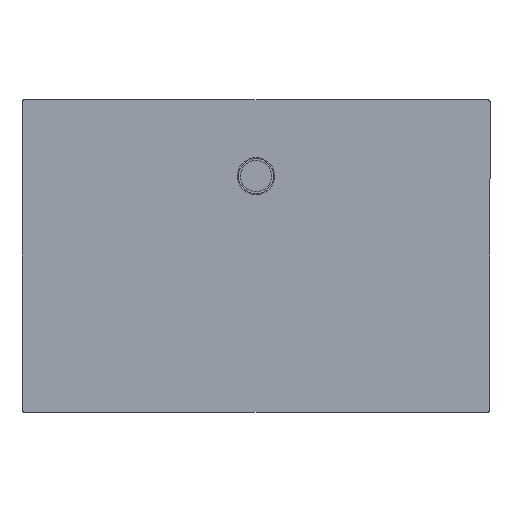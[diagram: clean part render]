
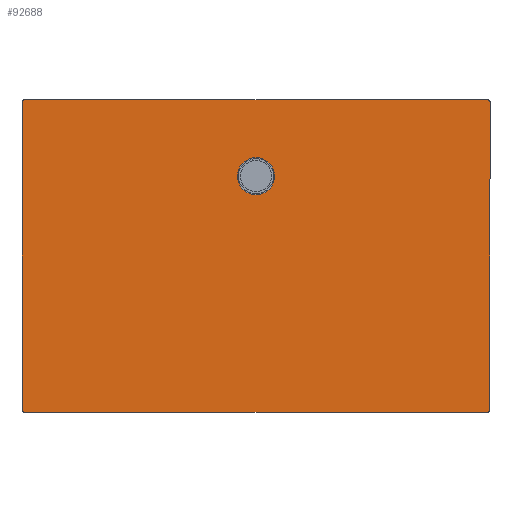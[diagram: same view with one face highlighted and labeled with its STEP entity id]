
A CAD part, front view. The second image highlights one B-rep face of the part: STEP entity #92688.
In plain terms, the highlighted planar face has unit normal (0, -1, 0).
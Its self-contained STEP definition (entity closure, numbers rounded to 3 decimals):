
#2409 = CARTESIAN_POINT ( 'NONE',  ( 598.628, -40., -605.698 ) ) ;
#3008 = VERTEX_POINT ( 'NONE', #140613 ) ;
#8614 = ORIENTED_EDGE ( 'NONE', *, *, #165196, .T. ) ;
#10735 = VECTOR ( 'NONE', #127885, 1000. ) ;
#12187 = CARTESIAN_POINT ( 'NONE',  ( 595.699, -40., -605.698 ) ) ;
#14139 = ORIENTED_EDGE ( 'NONE', *, *, #25645, .T. ) ;
#20526 = CARTESIAN_POINT ( 'NONE',  ( -600., -40., -605.698 ) ) ;
#21999 = CARTESIAN_POINT ( 'NONE',  ( -600.698, -40., 190.699 ) ) ;
#22152 = VERTEX_POINT ( 'NONE', #152691 ) ;
#23535 = CARTESIAN_POINT ( 'NONE',  ( -600., -40., 195. ) ) ;
#24350 = EDGE_CURVE ( 'NONE', #123108, #160865, #119192, .T. ) ;
#25109 = EDGE_CURVE ( 'NONE', #126327, #79175, #124640, .T. ) ;
#25645 = EDGE_CURVE ( 'NONE', #152157, #22152, #61862, .T. ) ;
#29486 = CARTESIAN_POINT ( 'NONE',  ( -600.698, -40., -600.699 ) ) ;
#30323 = CARTESIAN_POINT ( 'NONE',  ( 600.698, -40., -600.699 ) ) ;
#31161 = CARTESIAN_POINT ( 'NONE',  ( 595.699, -40., -605.698 ) ) ;
#33441 = CIRCLE ( 'NONE', #165921, 47.5 ) ;
#34046 = DIRECTION ( 'NONE',  ( -1., 0., 0. ) ) ;
#36552 = CARTESIAN_POINT ( 'NONE',  ( 598.628, -40., 195.698 ) ) ;
#37393 = CARTESIAN_POINT ( 'NONE',  ( 600.698, -40., 190.699 ) ) ;
#40094 = CARTESIAN_POINT ( 'NONE',  ( 0., -40., 47.5 ) ) ;
#42022 = CARTESIAN_POINT ( 'NONE',  ( 595.699, -40., 195.698 ) ) ;
#47375 = CARTESIAN_POINT ( 'NONE',  ( -600.698, -40., 193.628 ) ) ;
#47729 = ORIENTED_EDGE ( 'NONE', *, *, #146805, .F. ) ;
#49843 = DIRECTION ( 'NONE',  ( 0., 0., 1. ) ) ;
#50241 = EDGE_LOOP ( 'NONE', ( #71068 ) ) ;
#50595 = DIRECTION ( 'NONE',  ( 0., 1., 0. ) ) ;
#59468 =( BOUNDED_CURVE ( )  B_SPLINE_CURVE ( 3, ( #29486, #81104, #159013, #129399 ),
 .UNSPECIFIED., .F., .T. ) 
 B_SPLINE_CURVE_WITH_KNOTS ( ( 4, 4 ),
 ( 2.356, 3.927 ),
 .UNSPECIFIED. ) 
 CURVE ( )  GEOMETRIC_REPRESENTATION_ITEM ( )  RATIONAL_B_SPLINE_CURVE ( ( 1., 0.805, 0.805, 1. ) ) 
 REPRESENTATION_ITEM ( '' )  );
#60226 = LINE ( 'NONE', #61055, #143197 ) ;
#61055 = CARTESIAN_POINT ( 'NONE',  ( 600.698, -40., 195. ) ) ;
#61862 =( BOUNDED_CURVE ( )  B_SPLINE_CURVE ( 3, ( #163400, #71113, #47375, #21999 ),
 .UNSPECIFIED., .F., .T. ) 
 B_SPLINE_CURVE_WITH_KNOTS ( ( 4, 4 ),
 ( 2.356, 3.927 ),
 .UNSPECIFIED. ) 
 CURVE ( )  GEOMETRIC_REPRESENTATION_ITEM ( )  RATIONAL_B_SPLINE_CURVE ( ( 1., 0.805, 0.805, 1. ) ) 
 REPRESENTATION_ITEM ( '' )  );
#62460 = DIRECTION ( 'NONE',  ( 0., 0., 1. ) ) ;
#64795 = CARTESIAN_POINT ( 'NONE',  ( -595.699, -40., -605.698 ) ) ;
#67643 = VECTOR ( 'NONE', #106722, 1000. ) ;
#71068 = ORIENTED_EDGE ( 'NONE', *, *, #86882, .T. ) ;
#71113 = CARTESIAN_POINT ( 'NONE',  ( -598.628, -40., 195.698 ) ) ;
#71640 = EDGE_CURVE ( 'NONE', #79175, #158888, #111077, .T. ) ;
#76676 = AXIS2_PLACEMENT_3D ( 'NONE', #23535, #50595, #62460 ) ;
#77088 = LINE ( 'NONE', #143106, #10735 ) ;
#79175 = VERTEX_POINT ( 'NONE', #12187 ) ;
#81104 = CARTESIAN_POINT ( 'NONE',  ( -600.698, -40., -603.628 ) ) ;
#86882 = EDGE_CURVE ( 'NONE', #104394, #104394, #33441, .T. ) ;
#87262 = DIRECTION ( 'NONE',  ( 0., 0., 1. ) ) ;
#87322 = CARTESIAN_POINT ( 'NONE',  ( 600.698, -40., 193.628 ) ) ;
#88761 = ORIENTED_EDGE ( 'NONE', *, *, #108928, .F. ) ;
#89522 = FACE_BOUND ( 'NONE', #50241, .T. ) ;
#92688 = ADVANCED_FACE ( 'NONE', ( #89522, #139496 ), #166622, .F. ) ;
#104394 = VERTEX_POINT ( 'NONE', #40094 ) ;
#106722 = DIRECTION ( 'NONE',  ( 1., 0., 0. ) ) ;
#107341 = CARTESIAN_POINT ( 'NONE',  ( 600.698, -40., -603.628 ) ) ;
#108928 = EDGE_CURVE ( 'NONE', #3008, #22152, #77088, .T. ) ;
#111077 = LINE ( 'NONE', #20526, #163117 ) ;
#111879 = ORIENTED_EDGE ( 'NONE', *, *, #25109, .F. ) ;
#119192 =( BOUNDED_CURVE ( )  B_SPLINE_CURVE ( 3, ( #153376, #36552, #87322, #37393 ),
 .UNSPECIFIED., .F., .T. ) 
 B_SPLINE_CURVE_WITH_KNOTS ( ( 4, 4 ),
 ( 2.356, 3.927 ),
 .UNSPECIFIED. ) 
 CURVE ( )  GEOMETRIC_REPRESENTATION_ITEM ( )  RATIONAL_B_SPLINE_CURVE ( ( 1., 0.805, 0.805, 1. ) ) 
 REPRESENTATION_ITEM ( '' )  );
#119416 = CARTESIAN_POINT ( 'NONE',  ( -600., -40., 195.698 ) ) ;
#123108 = VERTEX_POINT ( 'NONE', #42022 ) ;
#124640 =( BOUNDED_CURVE ( )  B_SPLINE_CURVE ( 3, ( #30323, #107341, #2409, #31161 ),
 .UNSPECIFIED., .F., .T. ) 
 B_SPLINE_CURVE_WITH_KNOTS ( ( 4, 4 ),
 ( 2.356, 3.927 ),
 .UNSPECIFIED. ) 
 CURVE ( )  GEOMETRIC_REPRESENTATION_ITEM ( )  RATIONAL_B_SPLINE_CURVE ( ( 1., 0.805, 0.805, 1. ) ) 
 REPRESENTATION_ITEM ( '' )  );
#124914 = EDGE_CURVE ( 'NONE', #126327, #160865, #60226, .T. ) ;
#126327 = VERTEX_POINT ( 'NONE', #126456 ) ;
#126456 = CARTESIAN_POINT ( 'NONE',  ( 600.698, -40., -600.699 ) ) ;
#127706 = CARTESIAN_POINT ( 'NONE',  ( 0., -40., 0. ) ) ;
#127885 = DIRECTION ( 'NONE',  ( 0., 0., 1. ) ) ;
#129399 = CARTESIAN_POINT ( 'NONE',  ( -595.699, -40., -605.698 ) ) ;
#131864 = ORIENTED_EDGE ( 'NONE', *, *, #71640, .F. ) ;
#132111 = LINE ( 'NONE', #119416, #67643 ) ;
#132561 = CARTESIAN_POINT ( 'NONE',  ( -595.699, -40., 195.698 ) ) ;
#134733 = CARTESIAN_POINT ( 'NONE',  ( 600.698, -40., 190.699 ) ) ;
#139496 = FACE_OUTER_BOUND ( 'NONE', #139647, .T. ) ;
#139647 = EDGE_LOOP ( 'NONE', ( #88761, #8614, #131864, #111879, #158758, #149183, #47729, #14139 ) ) ;
#140613 = CARTESIAN_POINT ( 'NONE',  ( -600.698, -40., -600.699 ) ) ;
#143106 = CARTESIAN_POINT ( 'NONE',  ( -600.698, -40., 195. ) ) ;
#143197 = VECTOR ( 'NONE', #87262, 1000. ) ;
#146805 = EDGE_CURVE ( 'NONE', #152157, #123108, #132111, .T. ) ;
#149183 = ORIENTED_EDGE ( 'NONE', *, *, #24350, .F. ) ;
#152157 = VERTEX_POINT ( 'NONE', #132561 ) ;
#152691 = CARTESIAN_POINT ( 'NONE',  ( -600.698, -40., 190.699 ) ) ;
#153376 = CARTESIAN_POINT ( 'NONE',  ( 595.699, -40., 195.698 ) ) ;
#158758 = ORIENTED_EDGE ( 'NONE', *, *, #124914, .T. ) ;
#158888 = VERTEX_POINT ( 'NONE', #64795 ) ;
#159013 = CARTESIAN_POINT ( 'NONE',  ( -598.628, -40., -605.698 ) ) ;
#160865 = VERTEX_POINT ( 'NONE', #134733 ) ;
#163117 = VECTOR ( 'NONE', #34046, 1000. ) ;
#163400 = CARTESIAN_POINT ( 'NONE',  ( -595.699, -40., 195.698 ) ) ;
#165196 = EDGE_CURVE ( 'NONE', #3008, #158888, #59468, .T. ) ;
#165921 = AXIS2_PLACEMENT_3D ( 'NONE', #127706, #167528, #49843 ) ;
#166622 = PLANE ( 'NONE',  #76676 ) ;
#167528 = DIRECTION ( 'NONE',  ( 0., 1., 0. ) ) ;
